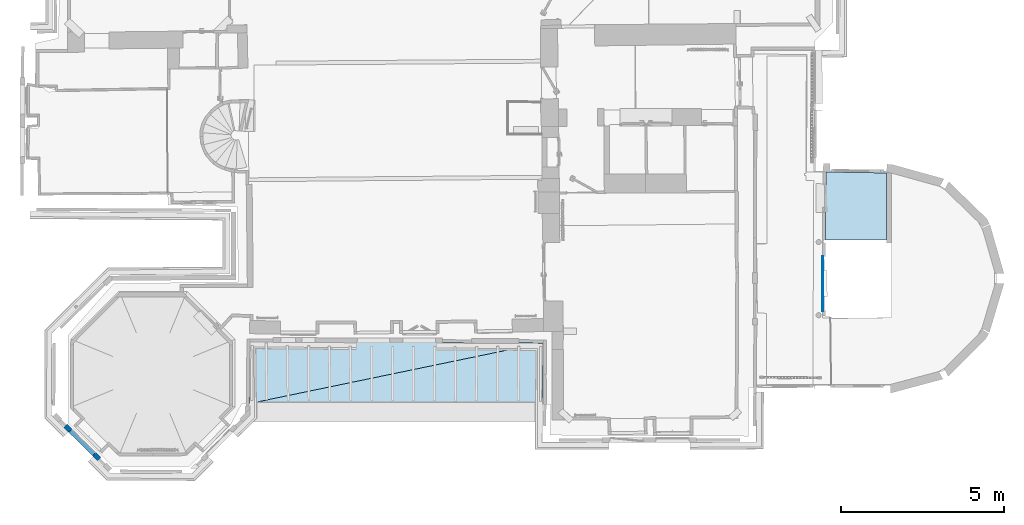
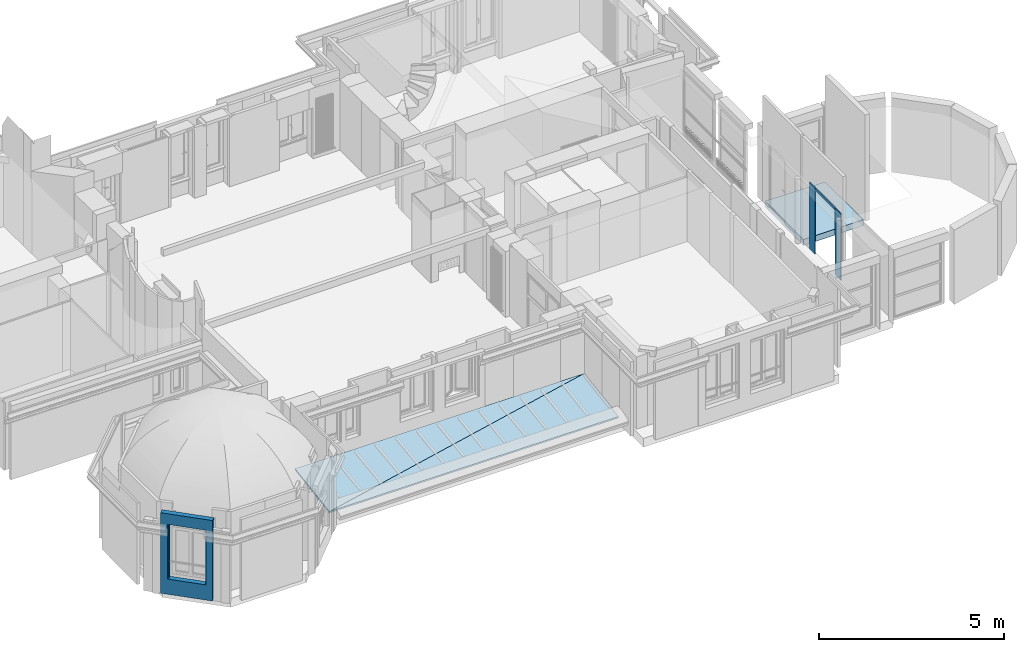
# One storey, part 3 of 72: 3 plates, 3 slabs, 1 wall, 1 opening, 4 elements without a shape of their own.
"""IFC2X3 building model written with IfcOpenShell, lengths in centimetres."""

from ifc_helpers import new_model, entity, si_unit, converted_unit, direction, frame, origin, origin_with_axes, place, context, subcontext, project, spatial, polyline, outline, extrude, clip, bounded_halfspace, faceted_brep, shape, source, transform, mapped, material, layer, layer_set, layer_usage, type_object, element, aggregate, save


model = new_model("IFC2X3")

# Units and contexts
model_context = context("Model", 3, precision=0.0001, world=origin(), true_north=direction((0.225632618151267, 0.974212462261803, 0.0)))
body_context = subcontext(model_context, "Body", "Model", "MODEL_VIEW")
footprint_context = subcontext(model_context, "FootPrint", "Model", "MODEL_VIEW")
profile_context = subcontext(model_context, "Profile", "Model", "MODEL_VIEW")
ifc_project = project(units=[si_unit("LENGTHUNIT", "METRE", prefix="CENTI"), si_unit("AREAUNIT", "SQUARE_METRE", prefix="CENTI"), si_unit("VOLUMEUNIT", "CUBIC_METRE", prefix="CENTI"), converted_unit("PLANEANGLEUNIT", "DEGREE", entity("IfcRatioMeasure", 0.0174532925), si_unit("PLANEANGLEUNIT", "RADIAN"), dimensions=[0, 0, 0, 0, 0, 0, 0])], contexts=[model_context])

# Site, building, storey
site_placement = place(None, origin_with_axes())
site = spatial("IfcSite", under=ifc_project, at=site_placement, Name="Default Site", CompositionType="ELEMENT")
building_placement = place(site_placement, origin_with_axes())
building = spatial("IfcBuilding", under=site, at=building_placement, Name="Default Building", CompositionType="ELEMENT")
storey_placement = place(building_placement, frame((0.0, 0.0, 853.910374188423), z_axis=(0.0, 0.0, 1.0), x_axis=(1.0, 0.0, 0.0)))
storey = spatial("IfcBuildingStorey", under=building, at=storey_placement, Name="Niveau 2", CompositionType="ELEMENT", Elevation=853.910374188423)

# Assembly, plate
building_element_proxy_type = type_object("IfcBuildingElementProxyType", Name="Type Object", PredefinedType="NOTDEFINED")
assembly_1_placement = place(storey_placement, frame((1097.21363416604, -616.309616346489, 0.0), z_axis=(0.0, 0.0, 1.0), x_axis=(0.00031824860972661, -0.999999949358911, 0.0)))
assembly_1 = element("IfcElementAssembly", 1, at=assembly_1_placement, inside=storey, type_object=building_element_proxy_type, Name="Panneau 1528700", ObjectType="Precast panel", PredefinedType="USERDEFINED")
ifc_material_1 = material(Name="Aluminium mat")
shared_shape_1 = source(origin_with_axes(), body_context, "Body", "Brep", [
    faceted_brep([(31.4999997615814, 221.600008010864, -0.999999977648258), (31.4999997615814, 0.0, -0.999999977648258), (0.0, 0.0, -0.999999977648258), (1.11022302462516e-14, 221.600008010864, -0.999999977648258), (1.11022302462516e-14, 221.600008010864, 0.999999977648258), (0.0, 0.0, 0.999999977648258), (31.4999997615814, 0.0, 0.999999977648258), (31.4999997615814, 221.600008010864, 0.999999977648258), (-6.23692995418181e-22, 3.12472174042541e-38, -0.999999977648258), (-6.23692995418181e-22, 3.12472174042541e-38, 0.999999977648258)], [[[0, 1, 2, 3]], [[4, 5, 6, 7]], [[3, 8, 9, 4]], [[2, 1, 6, 5]], [[1, 0, 7, 6]], [[0, 3, 4, 7]]]),
])
plate_1_placement = place(assembly_1_placement, frame((31.499999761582, 1.99999997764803, 221.600008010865), z_axis=(-2.3039296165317e-17, 1.0, 0.0), x_axis=(0.0, 0.0, 1.0)))
plate_1 = element("IfcPlate", 2, at=plate_1_placement, material=ifc_material_1, Name="4294967023", context=body_context, shape_type="MappedRepresentation", body=[
    mapped(shared_shape_1, transform((-221.600008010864, -31.4999997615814, -0.999999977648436), x_axis=(0.0, 1.0, 0.0), y_axis=(1.0, 0.0, 0.0), z_axis=(0.0, 0.0, -1.0), scale=1.0, scale2=1.0, scale3=1.0, uniform=False)),
])
aggregate(assembly_1, [plate_1])

assembly_2_placement = place(storey_placement, frame((1097.16040846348, -508.323714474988, 212.999999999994), z_axis=(0.0, 0.0, 1.0), x_axis=(0.000424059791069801, -0.999999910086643, 0.0)))
assembly_2 = element("IfcElementAssembly", 3, at=assembly_2_placement, inside=storey, type_object=building_element_proxy_type, Name="Panneau 1528701", ObjectType="Precast panel", PredefinedType="USERDEFINED")
shared_shape_2 = source(origin_with_axes(), body_context, "Body", "Brep", [
    faceted_brep([(108.000004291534, 10.0000001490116, -0.999999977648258), (108.000004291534, 0.0, -0.999999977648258), (0.0, 0.0, -0.999999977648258), (0.0, 10.0000001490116, -0.999999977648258), (0.0, 10.0000001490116, 0.999999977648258), (0.0, 0.0, 0.999999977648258), (108.000004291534, 0.0, 0.999999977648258), (108.000004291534, 10.0000001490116, 0.999999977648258)], [[[0, 1, 2, 3]], [[4, 5, 6, 7]], [[3, 2, 5, 4]], [[2, 1, 6, 5]], [[1, 0, 7, 6]], [[0, 3, 4, 7]]]),
])
plate_2_placement = place(assembly_2_placement, frame((108.000004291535, 1.99999997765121, 10.0000001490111), z_axis=(-2.83518868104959e-17, 1.0, 0.0), x_axis=(0.0, 0.0, 1.0)))
plate_2 = element("IfcPlate", 4, at=plate_2_placement, material=ifc_material_1, Name="4294967022", context=body_context, shape_type="MappedRepresentation", body=[
    mapped(shared_shape_2, transform((-10.0000001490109, -108.000004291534, -0.999999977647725), x_axis=(0.0, 1.0, 0.0), y_axis=(1.0, 0.0, 0.0), z_axis=(0.0, 0.0, -1.0), scale=1.0, scale2=1.0, scale3=1.0, uniform=False)),
])
aggregate(assembly_2, [plate_2])

assembly_3_placement = place(storey_placement, frame((1097.16040846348, -508.323714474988, 1.99999999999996), z_axis=(0.0, 0.0, 1.0), x_axis=(-0.000760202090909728, 0.99999971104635, 0.0)))
assembly_3 = element("IfcElementAssembly", 5, at=assembly_3_placement, inside=storey, type_object=building_element_proxy_type, Name="Panneau 1528699", ObjectType="Precast panel", PredefinedType="USERDEFINED")
shared_shape_3 = source(origin_with_axes(), body_context, "Body", "Brep", [
    faceted_brep([(28.0000001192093, 221.600008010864, -0.999999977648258), (28.0000001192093, 0.0, -0.999999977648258), (0.0, 0.0, -0.999999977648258), (1.35690866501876e-14, 221.600008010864, -0.999999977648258), (1.35690866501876e-14, 221.600008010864, 0.999999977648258), (0.0, 0.0, 0.999999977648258), (28.0000001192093, 0.0, 0.999999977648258), (28.0000001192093, 221.600008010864, 0.999999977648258), (-9.66980017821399e-22, 5.92104517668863e-38, -0.999999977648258), (-9.66980017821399e-22, 5.92104517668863e-38, 0.999999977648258)], [[[0, 1, 2, 3]], [[4, 5, 6, 7]], [[3, 8, 9, 4]], [[2, 1, 6, 5]], [[1, 0, 7, 6]], [[0, 3, 4, 7]]]),
])
plate_3_placement = place(assembly_3_placement, frame((28.0000001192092, -2.23510596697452e-08, 221.600008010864), z_axis=(3.25260651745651e-18, 1.0, 0.0), x_axis=(0.0, 0.0, 1.0)))
plate_3 = element("IfcPlate", 6, at=plate_3_placement, material=ifc_material_1, Name="4294967020", context=body_context, shape_type="MappedRepresentation", body=[
    mapped(shared_shape_3, transform((-221.600008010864, -28.0000001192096, -0.999999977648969), x_axis=(0.0, 1.0, 1.0842021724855e-19), y_axis=(1.0, 0.0, 0.0), z_axis=(0.0, 1.0842021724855e-19, -1.0), scale=1.0, scale2=1.0, scale3=1.0, uniform=False)),
])
aggregate(assembly_3, [plate_3])

# Slab
ifc_material_2 = material(Name="Carreaux en céramique")
ifc_layer_1 = layer(ifc_material_2, 1.5)
ifc_material_3 = material(Name="Chape en béton léger")
ifc_layer_2 = layer(ifc_material_3, 4.0)
ifc_material_4 = material(Name="Béton armé")
ifc_layer_3 = layer(ifc_material_4, 13.0)
ifc_material_5 = material(Name="Enduit de chaux et plâtre")
ifc_layer_4 = layer(ifc_material_5, 1.5)
ifc_layer_set_1 = layer_set([ifc_layer_1, ifc_layer_2, ifc_layer_3, ifc_layer_4], Name="Dalle en béton armé")
ifc_layer_usage_1 = layer_usage(ifc_layer_set_1, "AXIS3", "POSITIVE", 0.0)
slab_type = type_object("IfcSlabType", Name="Dalle en béton armé 200", PredefinedType="NOTDEFINED", material=ifc_layer_set_1)
slab_1_placement = place(storey_placement, frame((1250.39250400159, -276.796267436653, -19.9999999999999), z_axis=(0.0, 0.0, 1.0), x_axis=(1.0, 0.0, 0.0)))
element("IfcSlab", 7, at=slab_1_placement, inside=storey, type_object=slab_type, material=ifc_layer_usage_1, Name="Dalle 1533996", PredefinedType="NOTDEFINED", context=body_context, shape_type="SweptSolid", body=[
    extrude(outline(polyline([(-141.822442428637, 55.1499846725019), (42.7300870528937, 52.1226612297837), (43.380662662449, -153.414179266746), (-144.288307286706, -153.858466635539), (-141.822442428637, 55.1499846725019)])), origin_with_axes(), (0.0, 0.0, 1.0), 20.0),
])

# Roof, slabs
roof_placement = place(storey_placement, frame((-208.225984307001, -837.997997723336, 0.0), z_axis=(0.0, 0.0, 1.0), x_axis=(1.0, 0.0, 0.0)))
roof = element("IfcRoof", 8, at=roof_placement, inside=storey, Name="Toit 954628", ShapeType="NOTDEFINED")
ifc_material_6 = material(Name="<aucun>")
ifc_layer_5 = layer(ifc_material_6, 5.0)
ifc_layer_set_2 = layer_set([ifc_layer_5], Name="default")
slab_2_placement = place(roof_placement, frame((-149.540767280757, 32.0558221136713, 43.3333333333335), z_axis=(-0.000354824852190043, -0.13631741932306, 0.990665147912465), x_axis=(0.00257862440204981, 0.990661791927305, 0.136317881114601)))
slab_2 = element("IfcSlab", 9, at=slab_2_placement, material=ifc_layer_set_2, Name="Pan 4294966637", PredefinedType="ROOF", context=body_context, shape_type="Brep", body=[
    faceted_brep([(63.5768954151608, -599.424842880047, 2.1584822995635e-05), (63.5768926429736, 298.918091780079, 2.15817440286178e-05), (-127.15381209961, 300.506762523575, 2.17520888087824e-05), (-127.153895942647, 300.501050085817, -5.00004322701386), (62.8888784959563, 298.918091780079, -5.00004339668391), (62.8888873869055, -596.184699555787, -5.00004336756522), (62.8888873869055, -596.184699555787, -4.99999562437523), (62.8888873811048, 298.918091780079, -4.99999562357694), (63.5769015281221, 298.918091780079, 2.07436650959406e-05), (63.5769015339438, -599.424842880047, 2.0742863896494e-05), (62.8888784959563, 298.918091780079, -4.99999440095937), (-127.153895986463, 300.501044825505, -5.00004322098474), (-127.153811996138, 300.506774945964, 4.43433954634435e-06), (63.5768926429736, 298.918091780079, 2.19662826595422e-05), (62.8888407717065, -596.184709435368, -4.99999561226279), (63.5768527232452, -599.424851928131, 2.15959160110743e-05), (-127.153807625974, 300.506763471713, 4.44741508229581e-06)], [[[0, 1, 2]], [[3, 4, 5]], [[6, 7, 8, 9]], [[10, 11, 12, 13]], [[3, 14, 15, 16]]]),
])
slab_3_placement = place(roof_placement, frame((149.431317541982, -31.9373228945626, 34.6666666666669), z_axis=(-0.000458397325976, -0.135827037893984, 0.990732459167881), x_axis=(0.00334356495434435, 0.990726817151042, 0.135827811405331)))
slab_3 = element("IfcSlab", 10, at=slab_3_placement, material=ifc_layer_set_2, Name="Pan 4294966636", PredefinedType="ROOF", context=body_context, shape_type="Brep", body=[
    faceted_brep([(-63.806246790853, -299.406092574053, -4.35208900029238e-06), (127.612557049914, -300.189697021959, -4.23390307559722e-06), (-63.8063108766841, 599.595785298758, -4.35679529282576e-06), (-64.4917281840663, 602.824086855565, -4.99998354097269), (127.614470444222, -300.192524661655, -4.9999834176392), (-64.491735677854, -299.406092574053, -4.99998353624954), (-64.491735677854, -299.406092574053, -4.99998251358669), (127.614470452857, -300.192522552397, -4.99996023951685), (127.612557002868, -300.18970851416, 2.1595436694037e-05), (127.614470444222, -300.192524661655, -4.99996023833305), (-64.4917306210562, 602.824086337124, -4.99998354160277), (-63.8062432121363, 599.595799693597, 4.4514690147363e-06), (127.612575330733, -300.189693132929, 2.15937132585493e-05), (-64.4917283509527, -299.406092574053, -4.99998351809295), (-63.8062394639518, -299.406092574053, -5.35659526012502e-06), (-63.8062392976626, 599.595785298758, -5.37939318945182e-06)], [[[0, 1, 2]], [[3, 4, 5]], [[6, 7, 8, 0]], [[9, 10, 11, 12]], [[3, 13, 14, 15]]]),
])
aggregate(roof, [slab_2, slab_3])

# Wall, opening
ifc_layer_6 = layer(ifc_material_6, 15.0)
ifc_layer_set_3 = layer_set([ifc_layer_6], Name="default")
ifc_layer_usage_2 = layer_usage(ifc_layer_set_3, "AXIS2", "POSITIVE", -7.5)
wall_type = type_object("IfcWallType", Name="default 150", PredefinedType="NOTDEFINED", material=ifc_layer_set_3)
wall_placement = place(storey_placement, frame((-1118.37896526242, -1100.71558122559, -1.95399252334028e-11), z_axis=(0.0, 0.0, 1.0), x_axis=(-0.708665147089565, 0.70554497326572, 0.0)))
wall = element("IfcWallStandardCase", 11, at=wall_placement, inside=storey, type_object=wall_type, material=ifc_layer_usage_2, Name="Enveloppe 461744", context=body_context, shape_type="Clipping", body=[
    clip(clip(extrude(outline(polyline([(144.902181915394, 7.49999999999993), (0.0, 7.49999999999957), (-8.88178419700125e-14, 4.79623661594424), (-0.158288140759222, -4.20237132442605), (0.0, -4.20515565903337), (8.88178419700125e-14, -7.50000000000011), (144.902181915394, -7.49999999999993), (144.902181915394, -3.93973656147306), (145.050386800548, -3.93729570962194), (144.902181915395, 5.06148394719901), (144.902181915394, 7.49999999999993)])), frame((0.0, 0.0, 1.98951966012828e-11), z_axis=(0.0, 0.0, 1.0), x_axis=(1.0, 0.0, 0.0)), (0.0, 0.0, 1.0), 265.06162581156), bounded_halfspace(frame((145.050386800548, -3.93729570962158, 235.000000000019), z_axis=(0.0, 0.0, -1.0), x_axis=(-0.0164672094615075, 0.999864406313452, 0.0)), True, frame((145.050386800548, -3.93729570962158, 235.000000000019), z_axis=(0.0, 0.0, 1.0), x_axis=(1.0, 0.0, 0.0)), polyline([(-0.148204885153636, -0.00244085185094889), (-8.88178419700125e-14, 0.0), (-0.148204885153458, 8.99877965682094), (-0.148204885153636, -0.00244085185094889)]))), bounded_halfspace(frame((-0.158288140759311, -4.20237132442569, 235.000000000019), z_axis=(0.0, 0.0, -1.0), x_axis=(0.999845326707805, -0.0175875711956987, 0.0)), True, frame((-0.158288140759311, -4.20237132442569, 235.000000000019), z_axis=(0.0, 0.0, 1.0), x_axis=(1.0, 0.0, 0.0)), polyline([(-8.88178419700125e-14, 1.77635683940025e-13), (0.158288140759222, -0.00278433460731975), (0.158288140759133, 8.99860794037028), (-8.88178419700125e-14, 1.77635683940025e-13)]))),
])
opening_placement = place(wall_placement, frame((18.0547422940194, -4.54747350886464e-13, 50.0713135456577), z_axis=(0.0, 0.0, 1.0), x_axis=(1.0, 1.38777878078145e-15, 0.0)))
cartesian_point_1 = entity("IfcCartesianPoint", [-1.77635683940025e-13, 0.0, 179.844623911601])
cartesian_point_2 = entity("IfcCartesianPoint", [107.552439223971, 7.49999999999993])
element("IfcOpeningElement", 12, at=opening_placement, cuts=wall, Name="Baie 748551", ObjectType="Opening", shapes=[
    shape(body_context, "Body", "Brep", [faceted_brep([(-1.86698746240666e-05, 27.5000065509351, 179.84466343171), (107.552459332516, 27.5000073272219, 179.84466343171), (107.552459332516, 27.5000073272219, -2.09563353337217e-06), (-1.86698746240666e-05, 27.5000065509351, -2.09563353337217e-06), (3.00000416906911, -27.5000216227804, -2.09563353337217e-06), (104.552442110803, -27.5000208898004, -2.09563353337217e-06), (104.552442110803, -27.5000208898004, 179.84466343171), (3.00000416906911, -27.5000216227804, 179.84466343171), (3.00000394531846, 3.50003867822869, 179.84466343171), (3.00000394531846, 3.50003867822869, -2.09563353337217e-06), (3.00002043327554, 3.50003867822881, -2.09563353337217e-06), (3.00002043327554, 3.50003867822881, 179.84466343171), (3.40459530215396e-05, 3.50003865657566, 179.84466343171), (3.40459530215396e-05, 3.50003865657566, -2.09563353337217e-06), (3.40459534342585e-05, 3.49998147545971, -2.09563353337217e-06), (3.40459534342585e-05, 3.49998147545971, 179.84466343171), (3.38727272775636e-05, 27.5000065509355, 179.84466343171), (3.38727272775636e-05, 27.5000065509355, -2.09563353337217e-06), (104.552442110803, -27.5000574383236, -2.09563353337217e-06), (107.552459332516, 27.5000175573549, -2.09563353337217e-06), (107.552444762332, 3.50006006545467, -2.09563353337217e-06), (104.55245837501, 3.50000286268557, -2.09563353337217e-06), (104.552442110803, -27.5000574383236, 179.84466343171), (104.552441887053, 3.50000286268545, -2.09563353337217e-06), (104.552441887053, 3.50000286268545, 179.84466343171), (104.55245837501, 3.50000286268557, 179.84466343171), (107.552444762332, 3.50000288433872, -2.09563353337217e-06), (107.552444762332, 3.50000288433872, 179.84466343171), (107.552444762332, 3.50006006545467, 179.84466343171), (107.552444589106, 27.5000175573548, -2.09563353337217e-06), (107.552444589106, 27.5000175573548, 179.84466343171), (107.552459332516, 27.5000175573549, 179.84466343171)], [[[0, 1, 2, 3]], [[4, 5, 6, 7]], [[4, 7, 8, 9]], [[10, 11, 12, 13]], [[14, 15, 16, 17]], [[18, 4, 10, 14, 3, 19, 20, 21]], [[22, 18, 23, 24]], [[25, 21, 26, 27]], [[28, 20, 29, 30]], [[25, 28, 31, 0, 15, 11, 7, 22]]])]),
    shape(profile_context, "Profile", "GeometricCurveSet", [entity("IfcGeometricCurveSet", [entity("IfcPolyline", [cartesian_point_1, entity("IfcCartesianPoint", [-1.77635683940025e-13, 0.0, -1.77635683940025e-13]), entity("IfcCartesianPoint", [107.552439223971, 0.0, -1.77635683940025e-13]), entity("IfcCartesianPoint", [107.552439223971, 0.0, 179.844623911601]), cartesian_point_1])])]),
    shape(footprint_context, "FootPrint", "GeometricCurveSet", [entity("IfcGeometricCurveSet", [entity("IfcPolyline", [cartesian_point_2, entity("IfcCartesianPoint", [-2.66453525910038e-13, 7.49999999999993]), entity("IfcCartesianPoint", [-2.66453525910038e-13, -7.49999999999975]), entity("IfcCartesianPoint", [107.552439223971, -7.49999999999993]), cartesian_point_2])])]),
])

save(model, "model.ifc")
